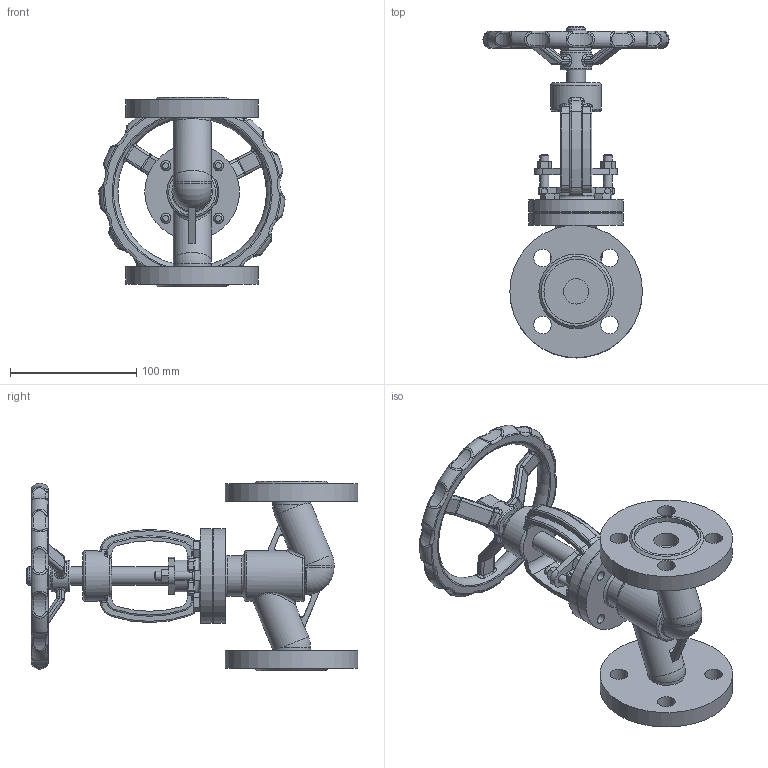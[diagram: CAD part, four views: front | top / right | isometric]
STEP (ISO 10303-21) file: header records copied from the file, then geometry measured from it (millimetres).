
FILE_DESCRIPTION(('STEP AP203'), '1');
FILE_NAME('VSO3131M-F-S 孰囡囗 玎镱痦 DN.ru 捏20 畜40', '2026-04-11T10:48:52', ('R2D2'), (''), 'C3D Converter', 'C3D Toolkit', '');
FILE_SCHEMA(('CONFIG_CONTROL_DESIGN'));
Length unit declared in the file: millimetre
Products named in the file (1): VSO3131M-F-S
Bounding box: 147.33 x 262.75 x 150 mm (x, y, z)
Volume: 634293.5 mm3; surface area: 132548.1 mm2
Topology: 1 solids, 1 shells, 961 faces, 2321 edges, 1394 vertices
Faces by surface type: plane 283, cylinder 202, torus 139, extrusion 121, bspline 81, cone 71, sphere 64
Full cylindrical faces by diameter (mm): 5 x8, 7 x4, 8 x6, 13 x4, 14 x8, 15 x3, 20 x2, 25 x2, 30 x5, 32 x1, 40 x2, 51 x2, 75 x2, 105 x2
Entity records: 64644 total; most frequent: CARTESIAN_POINT 36015, ORIENTED_EDGE 4452, DIRECTION 3940, EDGE_CURVE 2226, AXIS2_PLACEMENT_3D 1567, VERTEX_POINT 1389, EDGE_LOOP 1123, FACE_BOUND 1011
